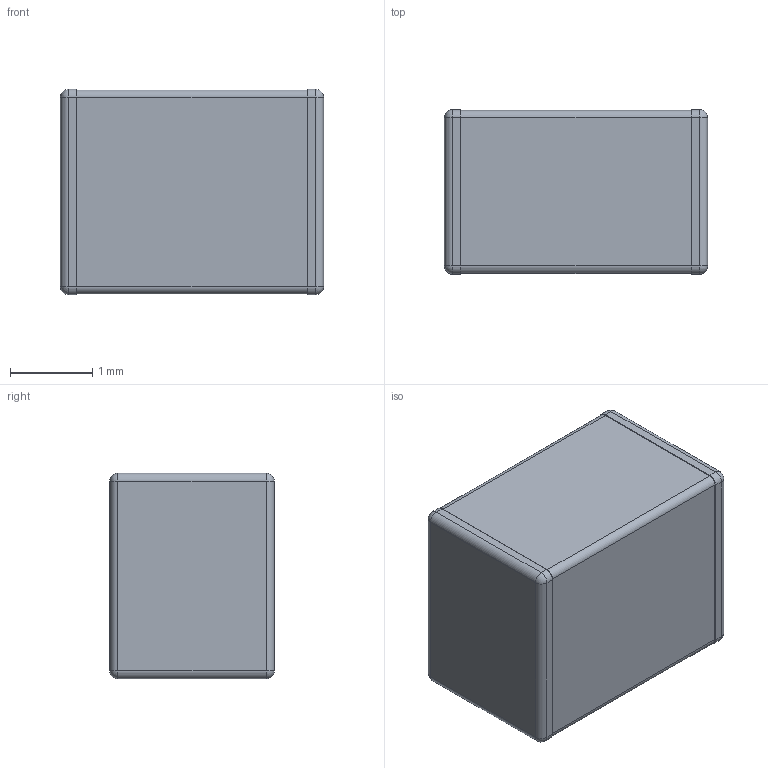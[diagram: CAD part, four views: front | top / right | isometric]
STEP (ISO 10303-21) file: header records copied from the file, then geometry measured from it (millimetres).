
FILE_DESCRIPTION (( 'STEP AP214' ), '1' );
FILE_NAME ('C3225X7R2E224M200AA.STEP', '2019-01-22T22:21:15', ( '' ), ( '' ), 'SwSTEP 2.0', 'SolidWorks 2017', '' );
FILE_SCHEMA (( 'AUTOMOTIVE_DESIGN' ));
Length unit declared in the file: millimetre
Products named in the file (1): C3225X7R2E224M200AA
Bounding box: 3.2 x 2 x 2.5 mm (x, y, z)
Volume: 15.7 mm3; surface area: 57.1 mm2
Topology: 3 solids, 3 shells, 46 faces, 104 edges, 56 vertices
Faces by surface type: cylinder 20, plane 18, sphere 8
Entity records: 1458 total; most frequent: DIRECTION 230, CARTESIAN_POINT 199, ORIENTED_EDGE 192, EDGE_CURVE 96, AXIS2_PLACEMENT_3D 87, VECTOR 56, VERTEX_POINT 56, LINE 56
